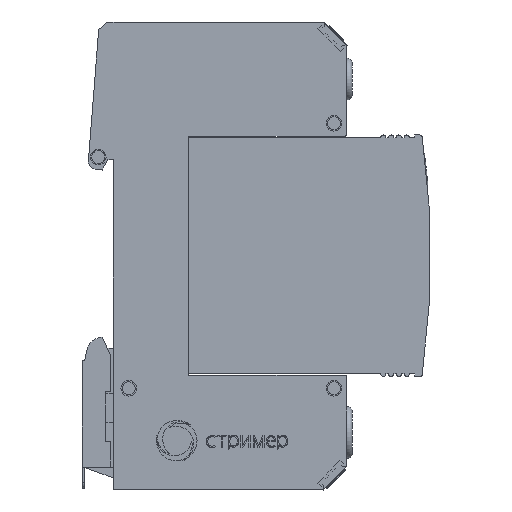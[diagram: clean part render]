
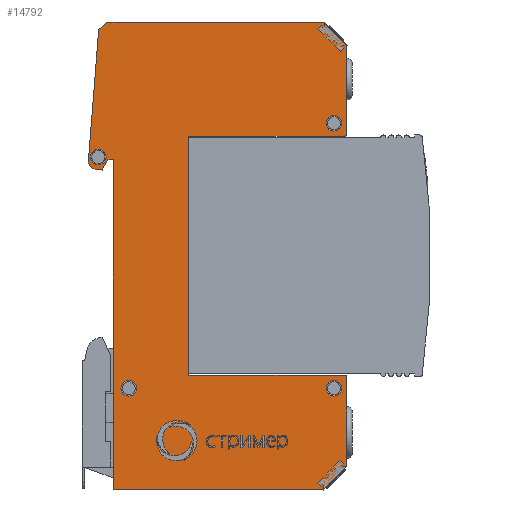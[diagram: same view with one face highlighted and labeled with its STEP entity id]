
A CAD part, front view. The second image highlights one B-rep face of the part: STEP entity #14792.
In plain terms, the highlighted planar face has unit normal (0, -1, 0).
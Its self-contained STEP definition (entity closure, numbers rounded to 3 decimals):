
#12972=CARTESIAN_POINT('',(-14.5,-9.,-45.));
#12973=VERTEX_POINT('',#12972);
#12974=CARTESIAN_POINT('',(26.,-9.,-45.));
#12975=VERTEX_POINT('',#12974);
#12976=CARTESIAN_POINT('',(-14.5,-9.,-45.));
#12977=DIRECTION('',(1.,0.,-0.));
#12978=VECTOR('',#12977,40.5);
#12979=LINE('',#12976,#12978);
#12980=EDGE_CURVE('',#12973,#12975,#12979,.T.);
#13642=CARTESIAN_POINT('',(-14.5,-9.,18.5));
#13643=VERTEX_POINT('',#13642);
#13644=CARTESIAN_POINT('',(-14.5,-9.,18.5));
#13645=DIRECTION('',(0.,0.,-1.));
#13646=VECTOR('',#13645,63.5);
#13647=LINE('',#13644,#13646);
#13648=EDGE_CURVE('',#13643,#12973,#13647,.T.);
#13843=CARTESIAN_POINT('',(-15.5,-9.,45.));
#13844=VERTEX_POINT('',#13843);
#13845=CARTESIAN_POINT('',(-17.29,-9.,43.498));
#13846=VERTEX_POINT('',#13845);
#13847=CARTESIAN_POINT('',(-15.5,-9.,45.));
#13848=DIRECTION('',(-0.766,0.,-0.643));
#13849=VECTOR('',#13848,2.337);
#13850=LINE('',#13847,#13849);
#13851=EDGE_CURVE('',#13844,#13846,#13850,.T.);
#13883=CARTESIAN_POINT('',(-19.273,-9.,18.306));
#13884=VERTEX_POINT('',#13883);
#13885=CARTESIAN_POINT('',(-17.29,-9.,43.498));
#13886=DIRECTION('',(-0.078,0.,-0.997));
#13887=VECTOR('',#13886,25.27);
#13888=LINE('',#13885,#13887);
#13889=EDGE_CURVE('',#13846,#13884,#13888,.T.);
#13914=CARTESIAN_POINT('',(-17.999,-9.,16.704));
#13915=VERTEX_POINT('',#13914);
#13916=CARTESIAN_POINT('',(-17.777,-9.,18.188));
#13917=DIRECTION('',(0.,-1.,0.));
#13918=DIRECTION('',(0.,0.,1.));
#13919=AXIS2_PLACEMENT_3D('',#13916,#13917,#13918);
#13920=CIRCLE('',#13919,1.5);
#13921=EDGE_CURVE('',#13884,#13915,#13920,.T.);
#13947=CARTESIAN_POINT('',(-16.632,-9.,16.5));
#13948=VERTEX_POINT('',#13947);
#13949=CARTESIAN_POINT('',(-17.999,-9.,16.704));
#13950=DIRECTION('',(0.989,0.,-0.148));
#13951=VECTOR('',#13950,1.383);
#13952=LINE('',#13949,#13951);
#13953=EDGE_CURVE('',#13915,#13948,#13952,.T.);
#13978=CARTESIAN_POINT('',(-15.5,-9.,18.5));
#13979=VERTEX_POINT('',#13978);
#13980=CARTESIAN_POINT('',(-16.632,-9.,16.5));
#13981=DIRECTION('',(0.492,0.,0.87));
#13982=VECTOR('',#13981,2.298);
#13983=LINE('',#13980,#13982);
#13984=EDGE_CURVE('',#13948,#13979,#13983,.T.);
#14009=CARTESIAN_POINT('',(-15.5,-9.,18.5));
#14010=DIRECTION('',(1.,0.,0.));
#14011=VECTOR('',#14010,1.);
#14012=LINE('',#14009,#14011);
#14013=EDGE_CURVE('',#13979,#13643,#14012,.T.);
#14031=CARTESIAN_POINT('',(30.5,-9.,-40.5));
#14032=VERTEX_POINT('',#14031);
#14033=CARTESIAN_POINT('',(26.,-9.,-45.));
#14034=DIRECTION('',(0.707,0.,0.707));
#14035=VECTOR('',#14034,6.364);
#14036=LINE('',#14033,#14035);
#14037=EDGE_CURVE('',#12975,#14032,#14036,.T.);
#14082=CARTESIAN_POINT('',(30.5,-9.,-23.5));
#14083=VERTEX_POINT('',#14082);
#14084=CARTESIAN_POINT('',(30.5,-9.,-40.5));
#14085=DIRECTION('',(0.,0.,1.));
#14086=VECTOR('',#14085,17.);
#14087=LINE('',#14084,#14086);
#14088=EDGE_CURVE('',#14032,#14083,#14087,.T.);
#14113=CARTESIAN_POINT('',(30.,-9.,-23.));
#14114=VERTEX_POINT('',#14113);
#14115=CARTESIAN_POINT('',(30.,-9.,-23.5));
#14116=DIRECTION('',(0.,-1.,0.));
#14117=DIRECTION('',(0.,0.,1.));
#14118=AXIS2_PLACEMENT_3D('',#14115,#14116,#14117);
#14119=CIRCLE('',#14118,0.5);
#14120=EDGE_CURVE('',#14083,#14114,#14119,.T.);
#14146=CARTESIAN_POINT('',(0.,-9.,-23.));
#14147=VERTEX_POINT('',#14146);
#14148=CARTESIAN_POINT('',(30.,-9.,-23.));
#14149=DIRECTION('',(-1.,0.,0.));
#14150=VECTOR('',#14149,30.);
#14151=LINE('',#14148,#14150);
#14152=EDGE_CURVE('',#14114,#14147,#14151,.T.);
#14177=CARTESIAN_POINT('',(0.,-9.,23.));
#14178=VERTEX_POINT('',#14177);
#14179=CARTESIAN_POINT('',(0.,-9.,-23.));
#14180=DIRECTION('',(0.,0.,1.));
#14181=VECTOR('',#14180,46.);
#14182=LINE('',#14179,#14181);
#14183=EDGE_CURVE('',#14147,#14178,#14182,.T.);
#14208=CARTESIAN_POINT('',(30.,-9.,23.));
#14209=VERTEX_POINT('',#14208);
#14210=CARTESIAN_POINT('',(0.,-9.,23.));
#14211=DIRECTION('',(1.,0.,0.));
#14212=VECTOR('',#14211,30.);
#14213=LINE('',#14210,#14212);
#14214=EDGE_CURVE('',#14178,#14209,#14213,.T.);
#14239=CARTESIAN_POINT('',(30.5,-9.,23.5));
#14240=VERTEX_POINT('',#14239);
#14241=CARTESIAN_POINT('',(30.,-9.,23.5));
#14242=DIRECTION('',(0.,-1.,0.));
#14243=DIRECTION('',(0.,0.,1.));
#14244=AXIS2_PLACEMENT_3D('',#14241,#14242,#14243);
#14245=CIRCLE('',#14244,0.5);
#14246=EDGE_CURVE('',#14209,#14240,#14245,.T.);
#14312=CARTESIAN_POINT('',(30.5,-9.,40.5));
#14313=VERTEX_POINT('',#14312);
#14314=CARTESIAN_POINT('',(30.5,-9.,23.5));
#14315=DIRECTION('',(0.,0.,1.));
#14316=VECTOR('',#14315,17.);
#14317=LINE('',#14314,#14316);
#14318=EDGE_CURVE('',#14240,#14313,#14317,.T.);
#14343=CARTESIAN_POINT('',(26.,-9.,45.));
#14344=VERTEX_POINT('',#14343);
#14345=CARTESIAN_POINT('',(30.5,-9.,40.5));
#14346=DIRECTION('',(-0.707,0.,0.707));
#14347=VECTOR('',#14346,6.364);
#14348=LINE('',#14345,#14347);
#14349=EDGE_CURVE('',#14313,#14344,#14348,.T.);
#14374=CARTESIAN_POINT('',(-17.38,-9.,17.5));
#14375=VERTEX_POINT('',#14374);
#14384=CARTESIAN_POINT('',(-18.88,-9.,19.));
#14385=VERTEX_POINT('',#14384);
#14386=CARTESIAN_POINT('',(-17.38,-9.,19.));
#14387=DIRECTION('',(0.,-1.,0.));
#14388=DIRECTION('',(-1.,0.,0.));
#14389=AXIS2_PLACEMENT_3D('',#14386,#14387,#14388);
#14390=CIRCLE('',#14389,1.5);
#14391=EDGE_CURVE('',#14375,#14385,#14390,.T.);
#14416=CARTESIAN_POINT('',(28.,-9.,24.));
#14417=VERTEX_POINT('',#14416);
#14426=CARTESIAN_POINT('',(26.5,-9.,25.5));
#14427=VERTEX_POINT('',#14426);
#14428=CARTESIAN_POINT('',(28.,-9.,25.5));
#14429=DIRECTION('',(0.,-1.,0.));
#14430=DIRECTION('',(-1.,0.,0.));
#14431=AXIS2_PLACEMENT_3D('',#14428,#14429,#14430);
#14432=CIRCLE('',#14431,1.5);
#14433=EDGE_CURVE('',#14417,#14427,#14432,.T.);
#14458=CARTESIAN_POINT('',(-11.5,-9.,-27.));
#14459=VERTEX_POINT('',#14458);
#14468=CARTESIAN_POINT('',(-13.,-9.,-25.5));
#14469=VERTEX_POINT('',#14468);
#14470=CARTESIAN_POINT('',(-11.5,-9.,-25.5));
#14471=DIRECTION('',(0.,-1.,0.));
#14472=DIRECTION('',(-1.,0.,0.));
#14473=AXIS2_PLACEMENT_3D('',#14470,#14471,#14472);
#14474=CIRCLE('',#14473,1.5);
#14475=EDGE_CURVE('',#14459,#14469,#14474,.T.);
#14500=CARTESIAN_POINT('',(28.,-9.,-27.));
#14501=VERTEX_POINT('',#14500);
#14510=CARTESIAN_POINT('',(26.5,-9.,-25.5));
#14511=VERTEX_POINT('',#14510);
#14512=CARTESIAN_POINT('',(28.,-9.,-25.5));
#14513=DIRECTION('',(0.,-1.,0.));
#14514=DIRECTION('',(-1.,0.,0.));
#14515=AXIS2_PLACEMENT_3D('',#14512,#14513,#14514);
#14516=CIRCLE('',#14515,1.5);
#14517=EDGE_CURVE('',#14501,#14511,#14516,.T.);
#14644=CARTESIAN_POINT('',(26.,-9.,45.));
#14645=DIRECTION('',(-1.,0.,0.));
#14646=VECTOR('',#14645,41.5);
#14647=LINE('',#14644,#14646);
#14648=EDGE_CURVE('',#14344,#13844,#14647,.T.);
#14727=CARTESIAN_POINT('',(0.,-9.,0.));
#14728=DIRECTION('',(0.,-1.,0.));
#14729=DIRECTION('',(0.,0.,1.));
#14730=AXIS2_PLACEMENT_3D('',#14727,#14728,#14729);
#14731=PLANE('',#14730);
#14732=ORIENTED_EDGE('',*,*,#14517,.F.);
#14733=CARTESIAN_POINT('',(28.,-9.,-25.5));
#14734=DIRECTION('',(0.,-1.,0.));
#14735=DIRECTION('',(-1.,0.,0.));
#14736=AXIS2_PLACEMENT_3D('',#14733,#14734,#14735);
#14737=CIRCLE('',#14736,1.5);
#14738=EDGE_CURVE('',#14511,#14501,#14737,.T.);
#14739=ORIENTED_EDGE('',*,*,#14738,.F.);
#14740=EDGE_LOOP('',(#14732,#14739));
#14741=FACE_BOUND('',#14740,.T.);
#14742=ORIENTED_EDGE('',*,*,#14475,.F.);
#14743=CARTESIAN_POINT('',(-11.5,-9.,-25.5));
#14744=DIRECTION('',(0.,-1.,0.));
#14745=DIRECTION('',(-1.,0.,0.));
#14746=AXIS2_PLACEMENT_3D('',#14743,#14744,#14745);
#14747=CIRCLE('',#14746,1.5);
#14748=EDGE_CURVE('',#14469,#14459,#14747,.T.);
#14749=ORIENTED_EDGE('',*,*,#14748,.F.);
#14750=EDGE_LOOP('',(#14742,#14749));
#14751=FACE_BOUND('',#14750,.T.);
#14752=ORIENTED_EDGE('',*,*,#14433,.F.);
#14753=CARTESIAN_POINT('',(28.,-9.,25.5));
#14754=DIRECTION('',(0.,-1.,0.));
#14755=DIRECTION('',(-1.,0.,0.));
#14756=AXIS2_PLACEMENT_3D('',#14753,#14754,#14755);
#14757=CIRCLE('',#14756,1.5);
#14758=EDGE_CURVE('',#14427,#14417,#14757,.T.);
#14759=ORIENTED_EDGE('',*,*,#14758,.F.);
#14760=EDGE_LOOP('',(#14752,#14759));
#14761=FACE_BOUND('',#14760,.T.);
#14762=ORIENTED_EDGE('',*,*,#14391,.F.);
#14763=CARTESIAN_POINT('',(-17.38,-9.,19.));
#14764=DIRECTION('',(0.,-1.,0.));
#14765=DIRECTION('',(-1.,0.,0.));
#14766=AXIS2_PLACEMENT_3D('',#14763,#14764,#14765);
#14767=CIRCLE('',#14766,1.5);
#14768=EDGE_CURVE('',#14385,#14375,#14767,.T.);
#14769=ORIENTED_EDGE('',*,*,#14768,.F.);
#14770=EDGE_LOOP('',(#14762,#14769));
#14771=FACE_BOUND('',#14770,.T.);
#14772=ORIENTED_EDGE('',*,*,#13851,.T.);
#14773=ORIENTED_EDGE('',*,*,#13889,.T.);
#14774=ORIENTED_EDGE('',*,*,#13921,.T.);
#14775=ORIENTED_EDGE('',*,*,#13953,.T.);
#14776=ORIENTED_EDGE('',*,*,#13984,.T.);
#14777=ORIENTED_EDGE('',*,*,#14013,.T.);
#14778=ORIENTED_EDGE('',*,*,#13648,.T.);
#14779=ORIENTED_EDGE('',*,*,#12980,.T.);
#14780=ORIENTED_EDGE('',*,*,#14037,.T.);
#14781=ORIENTED_EDGE('',*,*,#14088,.T.);
#14782=ORIENTED_EDGE('',*,*,#14120,.T.);
#14783=ORIENTED_EDGE('',*,*,#14152,.T.);
#14784=ORIENTED_EDGE('',*,*,#14183,.T.);
#14785=ORIENTED_EDGE('',*,*,#14214,.T.);
#14786=ORIENTED_EDGE('',*,*,#14246,.T.);
#14787=ORIENTED_EDGE('',*,*,#14318,.T.);
#14788=ORIENTED_EDGE('',*,*,#14349,.T.);
#14789=ORIENTED_EDGE('',*,*,#14648,.T.);
#14790=EDGE_LOOP('',(#14772,#14773,#14774,#14775,#14776,#14777,#14778,#14779,#14780,#14781,#14782,#14783,#14784,#14785,#14786,#14787,#14788,#14789));
#14791=FACE_BOUND('',#14790,.T.);
#14792=ADVANCED_FACE('',(#14741,#14751,#14761,#14771,#14791),#14731,.T.);
